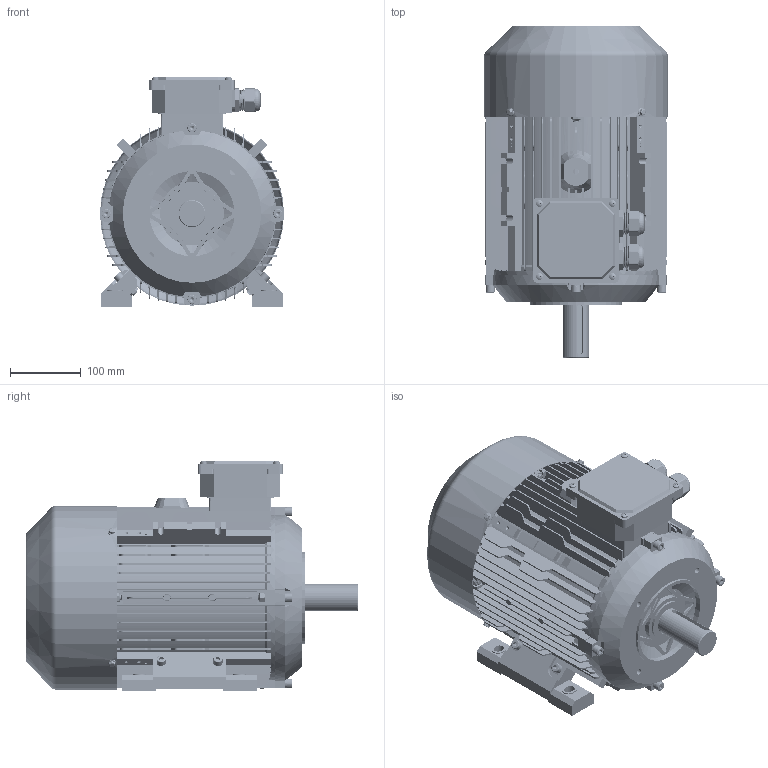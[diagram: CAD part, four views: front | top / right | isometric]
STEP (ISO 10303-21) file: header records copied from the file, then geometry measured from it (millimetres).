
FILE_DESCRIPTION (( 'STEP AP203' ), '1' );
FILE_NAME ('ME3-132S B34 3D.STEP', '2024-07-27T02:19:33', ( 'User' ), ( 'China' ), 'SwSTEP 2.0', 'SolidWorks 2018', '' );
FILE_SCHEMA (( 'CONFIG_CONTROL_DESIGN' ));
Length unit declared in the file: millimetre
Products named in the file (19): hex nuts-style normal-grades ab gb_GB_HEXAGON_TYPE10 M8X1-S; ME3-132S菁褐; spring lock washers--normal type gb_GB_FASTENER_WASHER_SW 8; ME3-132 B3傷裔; hex flange bolts-heavy grade b gb_GB_FASTENER_BOLT_HFBB M5X10-S; hexagon socket head cap screws gb_GB_FASTENER_SCREWS_HSHCS M8X30-S; deep groove ball bearings gb_Rolling bearings 6308 GB 276-94; cross recessed pan head screws gb_GB_CROSS_SCREWS_TYPE1 M5X8-8  H type-S; ME3-132瑞欶; ME3-132S蛌粣; MS112-132諉盄碟裔; MS112-132 諉盄碟釱; 40X58X7蚐猾; M24 蹟杶; ME3-132B14傷裔; M24 蹟杶簸; ME3-132S B34   3D; hexagon socket head cap screws gb_GB_FASTENER_SCREWS_HSHCS M8X40-S; ME3-132S儂褲
Assembly tree (55 placements, depth 2):
  ME3-132S B34   3D
    ME3-132S儂褲
    ME3-132S菁褐  x2
    ME3-132 B3傷裔
    deep groove ball bearings gb_Rolling bearings 6308 GB 276-94  x2
    ME3-132S蛌粣
    MS112-132 諉盄碟釱
    M24 蹟杶  x2
    M24 蹟杶簸  x2
    hexagon socket head cap screws gb_GB_FASTENER_SCREWS_HSHCS M8X40-S  x7
    hex nuts-style normal-grades ab gb_GB_HEXAGON_TYPE10 M8X1-S  x11
    spring lock washers--normal type gb_GB_FASTENER_WASHER_SW 8  x4
    hexagon socket head cap screws gb_GB_FASTENER_SCREWS_HSHCS M8X30-S  x5
    ME3-132瑞欶
    hex flange bolts-heavy grade b gb_GB_FASTENER_BOLT_HFBB M5X10-S  x4
    cross recessed pan head screws gb_GB_CROSS_SCREWS_TYPE1 M5X8-8  H type-S  x8
    MS112-132諉盄碟裔
    40X58X7蚐猾
    ME3-132B14傷裔
Bounding box: 259.6 x 467.96 x 325 mm (x, y, z)
Volume: 3474132.2 mm3; surface area: 1737687.1 mm2
Topology: 57 solids, 58 shells, 8555 faces, 20832 edges, 12373 vertices
Faces by surface type: cone 3195, plane 2600, cylinder 2398, torus 242, sphere 76, bspline 44
Entity records: 140944 total; most frequent: CARTESIAN_POINT 35579, ORIENTED_EDGE 22062, DIRECTION 20502, EDGE_CURVE 11031, VERTEX_POINT 7067, AXIS2_PLACEMENT_3D 6851, VECTOR 6800, LINE 6800
